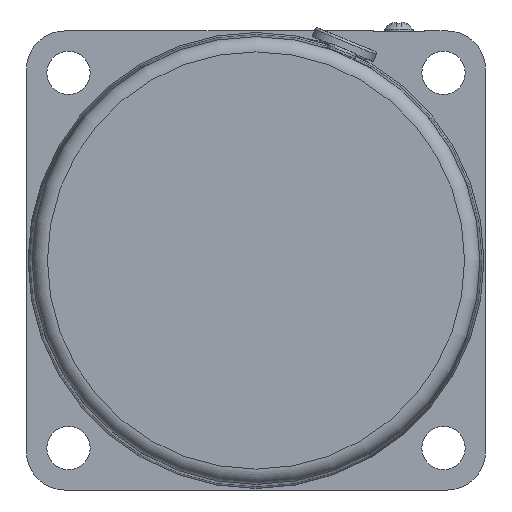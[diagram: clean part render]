
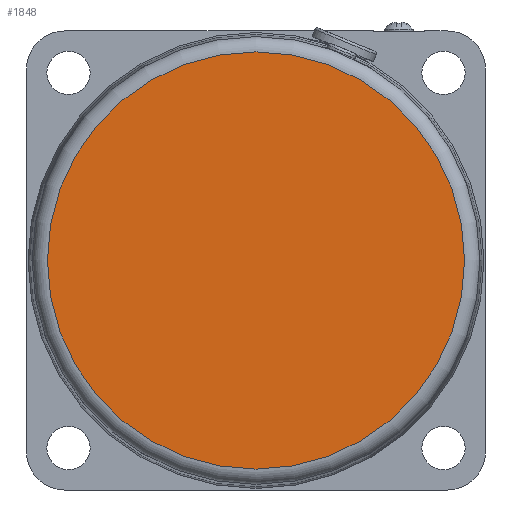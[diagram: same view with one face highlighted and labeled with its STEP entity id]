
A CAD part, left-side view. The second image highlights one B-rep face of the part: STEP entity #1848.
In plain terms, the highlighted planar face has unit normal (-1, 0, 0).
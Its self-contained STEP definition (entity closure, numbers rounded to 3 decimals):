
#410=FACE_OUTER_BOUND('',#535,.T.);
#535=EDGE_LOOP('',(#1203));
#677=CIRCLE('',#1975,40.9);
#766=VERTEX_POINT('',#2747);
#944=EDGE_CURVE('',#766,#766,#677,.T.);
#1203=ORIENTED_EDGE('',*,*,#944,.F.);
#1663=PLANE('',#1977);
#1848=ADVANCED_FACE('',(#410),#1663,.T.);
#1975=AXIS2_PLACEMENT_3D('',#2748,#2203,#2204);
#1977=AXIS2_PLACEMENT_3D('',#2750,#2207,#2208);
#2203=DIRECTION('center_axis',(1.,0.,0.));
#2204=DIRECTION('ref_axis',(0.,1.,0.));
#2207=DIRECTION('center_axis',(-1.,0.,0.));
#2208=DIRECTION('ref_axis',(0.,1.,0.));
#2747=CARTESIAN_POINT('',(-38.5,-40.9,0.));
#2748=CARTESIAN_POINT('Origin',(-38.5,0.,
0.));
#2750=CARTESIAN_POINT('Origin',(-38.5,0.,
0.));
